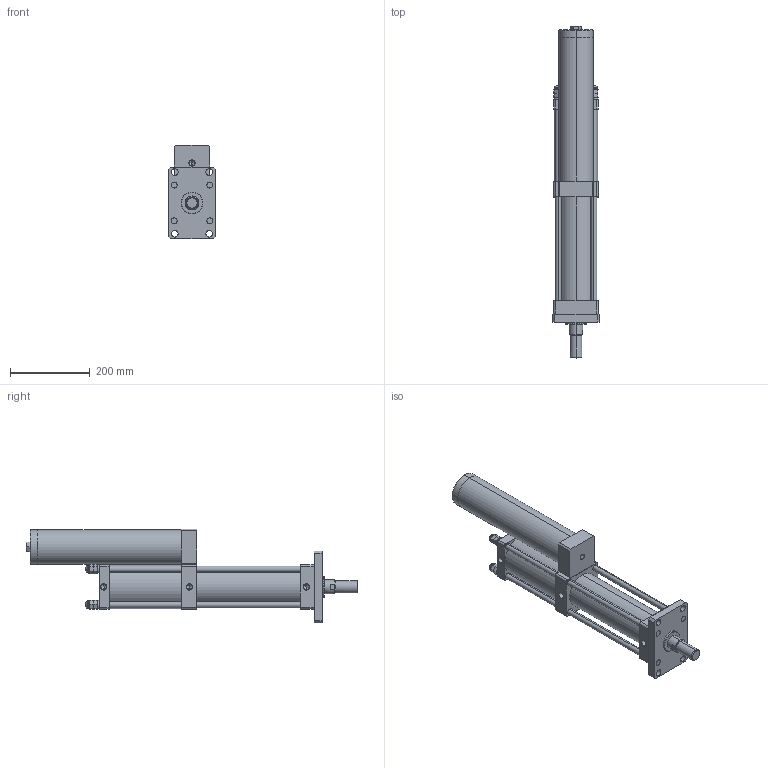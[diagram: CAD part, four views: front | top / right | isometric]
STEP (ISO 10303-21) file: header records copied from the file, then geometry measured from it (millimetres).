
FILE_DESCRIPTION (( 'STEP AP203' ), '1' );
FILE_NAME ('MPT-80-200-10-5T.STEP', '2016-03-11T01:43:49', ( 'WIN' ), ( '' ), 'SwSTEP 2.0', 'SolidWorks 2014', '' );
FILE_SCHEMA (( 'CONFIG_CONTROL_DESIGN' ));
Length unit declared in the file: millimetre
Products named in the file (1): MPT-80-200-10-5T
Bounding box: 118 x 835 x 235 mm (x, y, z)
Volume: 6067420 mm3; surface area: 743612 mm2
Topology: 20 solids, 20 shells, 391 faces, 954 edges, 554 vertices
Faces by surface type: plane 184, cylinder 84, torus 48, bspline 48, cone 27
Entity records: 12532 total; most frequent: CARTESIAN_POINT 3676, DIRECTION 1861, ORIENTED_EDGE 1776, EDGE_CURVE 888, AXIS2_PLACEMENT_3D 683, VERTEX_POINT 554, VECTOR 495, LINE 495
